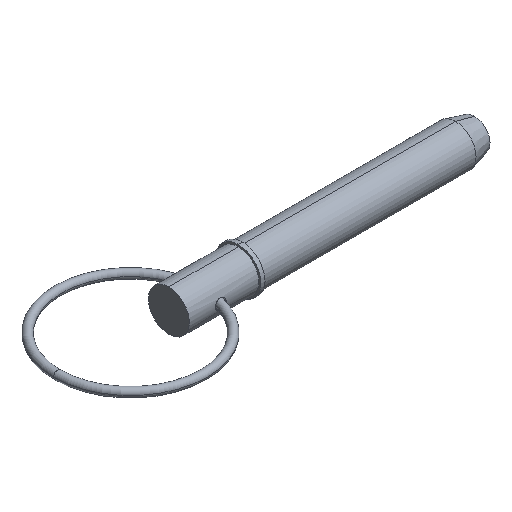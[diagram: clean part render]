
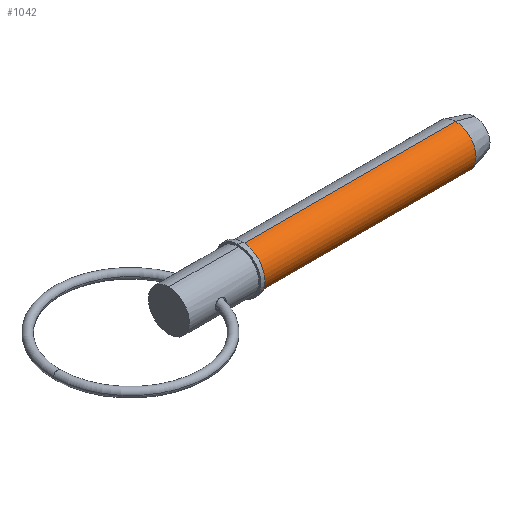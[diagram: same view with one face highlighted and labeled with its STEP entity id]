
A CAD part, isometric view. The second image highlights one B-rep face of the part: STEP entity #1042.
In plain terms, the highlighted cylindrical face has radius 7.145 mm (diameter 14.29 mm), a partial arc.
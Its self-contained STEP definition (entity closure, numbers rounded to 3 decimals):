
#4 = EDGE_CURVE ( 'NONE', #1031, #641, #591, .T. ) ;
#76 = AXIS2_PLACEMENT_3D ( 'NONE', #948, #986, #957 ) ;
#98 = EDGE_CURVE ( 'NONE', #272, #1031, #978, .T. ) ;
#100 = VERTEX_POINT ( 'NONE', #251 ) ;
#135 = VECTOR ( 'NONE', #636, 1000. ) ;
#168 = CIRCLE ( 'NONE', #242, 7.145 ) ;
#209 = EDGE_LOOP ( 'NONE', ( #916, #655, #844, #381 ) ) ;
#242 = AXIS2_PLACEMENT_3D ( 'NONE', #664, #1001, #515 ) ;
#245 = CARTESIAN_POINT ( 'NONE',  ( 25.7, 0., 7.145 ) ) ;
#251 = CARTESIAN_POINT ( 'NONE',  ( 25.7, 0., -7.145 ) ) ;
#272 = VERTEX_POINT ( 'NONE', #245 ) ;
#297 = DIRECTION ( 'NONE',  ( 0., 0., -1. ) ) ;
#317 = LINE ( 'NONE', #648, #135 ) ;
#381 = ORIENTED_EDGE ( 'NONE', *, *, #4, .F. ) ;
#424 = VECTOR ( 'NONE', #904, 1000. ) ;
#515 = DIRECTION ( 'NONE',  ( 0., 0., -1. ) ) ;
#521 = EDGE_CURVE ( 'NONE', #272, #100, #168, .T. ) ;
#549 = FACE_OUTER_BOUND ( 'NONE', #209, .T. ) ;
#555 = CARTESIAN_POINT ( 'NONE',  ( 99.984, 0., 7.145 ) ) ;
#591 = CIRCLE ( 'NONE', #76, 7.145 ) ;
#636 = DIRECTION ( 'NONE',  ( 1., 0., 0. ) ) ;
#641 = VERTEX_POINT ( 'NONE', #960 ) ;
#648 = CARTESIAN_POINT ( 'NONE',  ( 0., 0., -7.145 ) ) ;
#655 = ORIENTED_EDGE ( 'NONE', *, *, #521, .T. ) ;
#664 = CARTESIAN_POINT ( 'NONE',  ( 25.7, 0., 0. ) ) ;
#791 = CYLINDRICAL_SURFACE ( 'NONE', #1045, 7.145 ) ;
#825 = EDGE_CURVE ( 'NONE', #100, #641, #317, .T. ) ;
#844 = ORIENTED_EDGE ( 'NONE', *, *, #825, .T. ) ;
#878 = DIRECTION ( 'NONE',  ( 1., 0., 0. ) ) ;
#895 = CARTESIAN_POINT ( 'NONE',  ( 0., 0., 7.145 ) ) ;
#904 = DIRECTION ( 'NONE',  ( 1., 0., 0. ) ) ;
#916 = ORIENTED_EDGE ( 'NONE', *, *, #98, .F. ) ;
#948 = CARTESIAN_POINT ( 'NONE',  ( 99.984, 0., 0. ) ) ;
#957 = DIRECTION ( 'NONE',  ( 0., 0., -1. ) ) ;
#960 = CARTESIAN_POINT ( 'NONE',  ( 99.984, 0., -7.145 ) ) ;
#978 = LINE ( 'NONE', #895, #424 ) ;
#986 = DIRECTION ( 'NONE',  ( 1., 0., 0. ) ) ;
#1001 = DIRECTION ( 'NONE',  ( 1., 0., 0. ) ) ;
#1031 = VERTEX_POINT ( 'NONE', #555 ) ;
#1042 = ADVANCED_FACE ( 'NONE', ( #549 ), #791, .T. ) ;
#1045 = AXIS2_PLACEMENT_3D ( 'NONE', #1047, #878, #297 ) ;
#1047 = CARTESIAN_POINT ( 'NONE',  ( 0., 0., 0. ) ) ;
